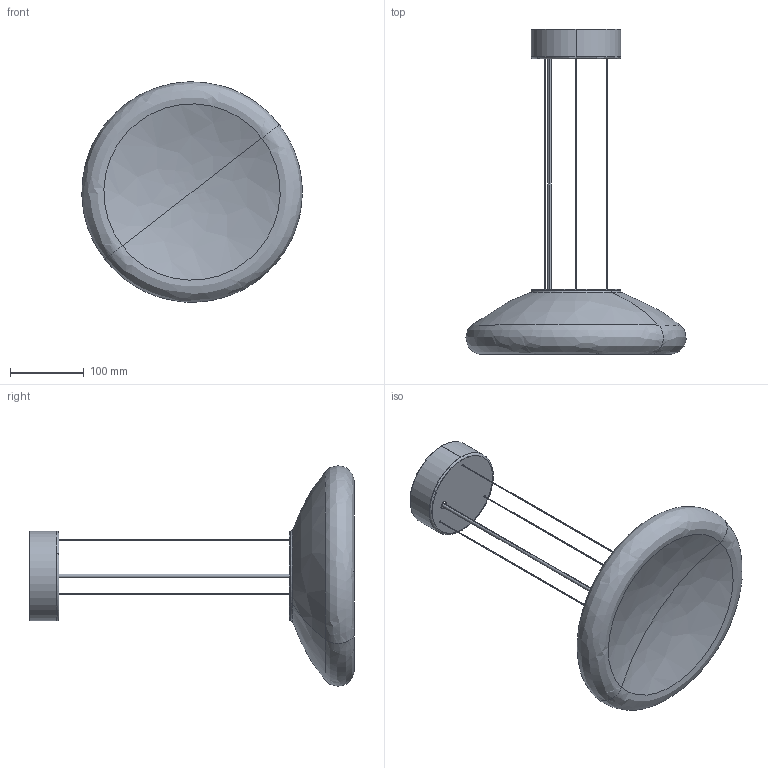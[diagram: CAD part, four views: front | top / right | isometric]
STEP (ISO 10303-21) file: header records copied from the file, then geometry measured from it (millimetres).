
FILE_DESCRIPTION (( 'STEP AP203' ), '1' );
FILE_NAME ('KEYRA_30S_STEP.STEP', '2016-01-19T10:19:19', ( 'admin' ), ( '' ), 'SwSTEP 2.0', 'SolidWorks 2015', '' );
FILE_SCHEMA (( 'CONFIG_CONTROL_DESIGN' ));
Length unit declared in the file: millimetre
Products named in the file (2): KEYRA_30S_STEP
Bounding box: 299.85 x 442.05 x 299.95 mm (x, y, z)
Volume: 1038463.6 mm3; surface area: 439997.7 mm2
Topology: 9 solids, 9 shells, 218 faces, 526 edges, 335 vertices
Faces by surface type: cylinder 135, plane 43, bspline 20, cone 20
Entity records: 7801 total; most frequent: CARTESIAN_POINT 2357, DIRECTION 1186, ORIENTED_EDGE 1032, EDGE_CURVE 516, AXIS2_PLACEMENT_3D 500, VERTEX_POINT 335, EDGE_LOOP 303, CIRCLE 300
